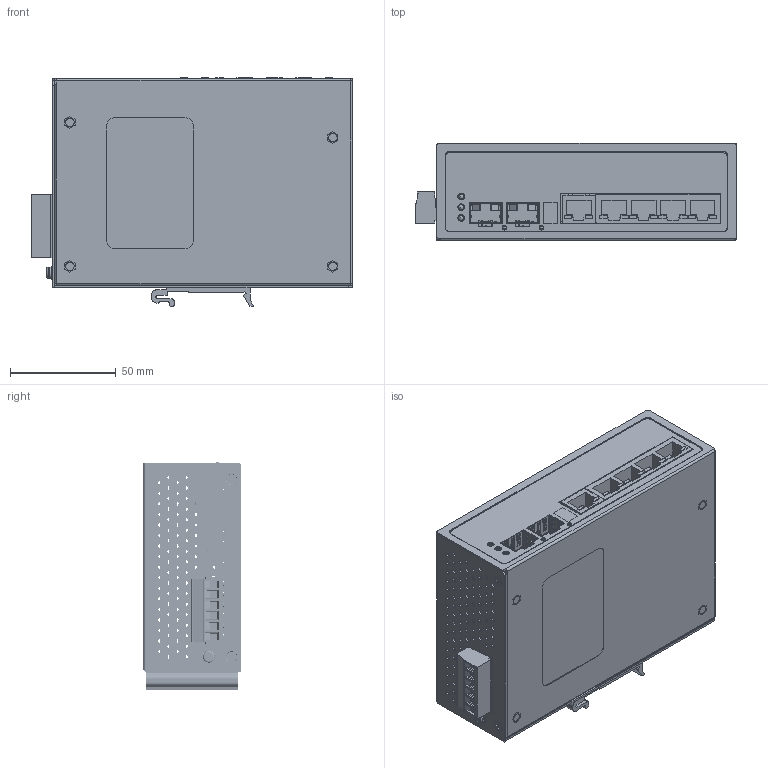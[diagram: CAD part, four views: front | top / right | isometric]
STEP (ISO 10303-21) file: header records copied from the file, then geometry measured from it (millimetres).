
FILE_DESCRIPTION( ( '' ), ' ' );
FILE_NAME( '/vol/tmp/translate-4808361875161771616/5e5950e8bd8a1714bb5a3954.step', '2020-02-28T17:42:02', ( '' ), ( '' ), ' ', ' ', ' ' );
FILE_SCHEMA( ( 'AUTOMOTIVE_DESIGN { 1 0 10303 214 1 1 1 1 }' ) );
Length unit declared in the file: metre
Products named in the file (251): Front Housing; Standoff; PRT0003; Socket; CONN-4; CONN-1; LED; PRT0008; SFP-1; SFP-2; Connector; Rear Housing; DIN; GND; Screw; Front Cover
Bounding box: 151.96 x 46 x 108.23 mm (x, y, z)
Volume: 27902.2 mm3; surface area: 142625.2 mm2
Topology: 29 solids, 2579 shells, 3851 faces, 18174 edges, 16632 vertices
Faces by surface type: plane 2247, cylinder 1442, torus 77, cone 50, sphere 33, bspline 2
Full cylindrical faces by diameter (mm): 1.4 x6, 1.9 x245, 2 x41, 2.2 x2, 2.3 x3, 2.449 x4, 2.459 x4, 2.8 x10, 2.9 x8, 3 x13, 3.2 x3, 3.5 x7, 3.78 x4, 3.783 x6, 3.99 x8, 4 x28, 4.2 x13, 5 x10, 5.5 x1
Entity records: 216024 total; most frequent: CARTESIAN_POINT 42041, DIRECTION 30326, ORIENTED_EDGE 20392, EDGE_CURVE 17297, VERTEX_POINT 16274, LINE 11612, VECTOR 11612, AXIS2_PLACEMENT_3D 9357
